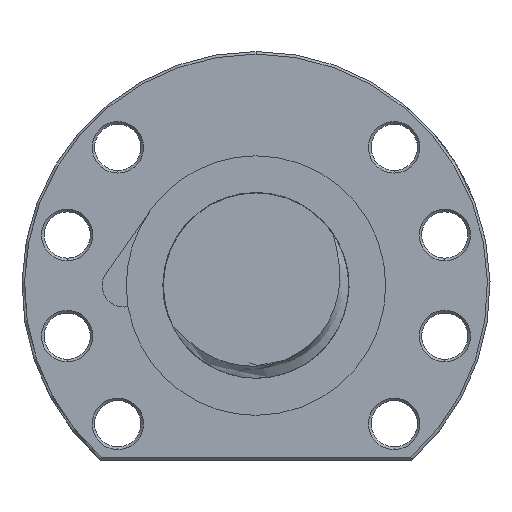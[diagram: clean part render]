
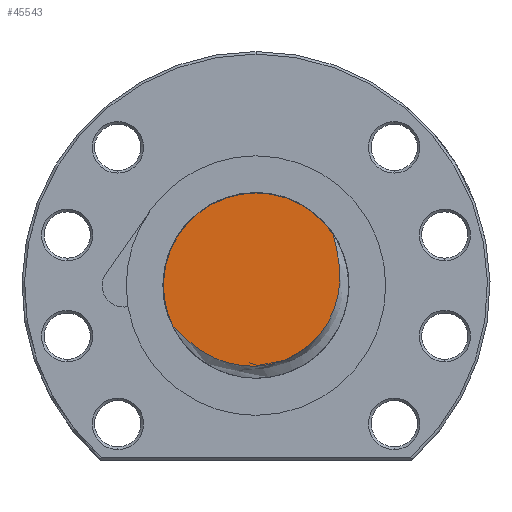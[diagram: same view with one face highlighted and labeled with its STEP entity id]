
A CAD part, left-side view. The second image highlights one B-rep face of the part: STEP entity #45543.
In plain terms, the highlighted planar face has unit normal (-1, 0, 0).
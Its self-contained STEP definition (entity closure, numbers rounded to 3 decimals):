
#68 = EDGE_CURVE ( 'NONE', #152, #69, #22469, .T. ) ;
#69 = VERTEX_POINT ( 'NONE', #22460 ) ;
#150 = VERTEX_POINT ( 'NONE', #24241 ) ;
#151 = EDGE_CURVE ( 'NONE', #150, #152, #24236, .T. ) ;
#152 = VERTEX_POINT ( 'NONE', #24227 ) ;
#22460 = CARTESIAN_POINT ( 'NONE',  ( -232., -15.025, 9.912 ) ) ;
#22462 = DIRECTION ( 'NONE',  ( 0., 1., 0. ) ) ;
#22463 = DIRECTION ( 'NONE',  ( 1., 0., 0. ) ) ;
#22465 = CARTESIAN_POINT ( 'NONE',  ( -232., 0., 0. ) ) ;
#22467 = AXIS2_PLACEMENT_3D ( 'NONE', #22465, #22463, #22462 ) ;
#22469 = CIRCLE ( 'NONE', #22467, 18. ) ;
#24227 = CARTESIAN_POINT ( 'NONE',  ( -232., 0., 18. ) ) ;
#24229 = DIRECTION ( 'NONE',  ( 0., 1., 0. ) ) ;
#24231 = DIRECTION ( 'NONE',  ( 1., 0., 0. ) ) ;
#24233 = CARTESIAN_POINT ( 'NONE',  ( -232., 0., 0. ) ) ;
#24234 = AXIS2_PLACEMENT_3D ( 'NONE', #24233, #24231, #24229 ) ;
#24236 = CIRCLE ( 'NONE', #24234, 18. ) ;
#24241 = CARTESIAN_POINT ( 'NONE',  ( -232., 16.096, -8.056 ) ) ;
#34866 = CARTESIAN_POINT ( 'NONE',  ( -232., 0.701, -15.733 ) ) ;
#34867 = CARTESIAN_POINT ( 'NONE',  ( -232., 2.358, -15.625 ) ) ;
#34868 = CARTESIAN_POINT ( 'NONE',  ( -232., 2.914, -15.562 ) ) ;
#34869 = CARTESIAN_POINT ( 'NONE',  ( -232., 4.012, -15.384 ) ) ;
#34870 = CARTESIAN_POINT ( 'NONE',  ( -232., 4.553, -15.27 ) ) ;
#34871 = CARTESIAN_POINT ( 'NONE',  ( -232., 6.153, -14.854 ) ) ;
#34872 = CARTESIAN_POINT ( 'NONE',  ( -232., 7.19, -14.479 ) ) ;
#34873 = CARTESIAN_POINT ( 'NONE',  ( -232., 8.702, -13.777 ) ) ;
#34874 = CARTESIAN_POINT ( 'NONE',  ( -232., 9.199, -13.519 ) ) ;
#34875 = CARTESIAN_POINT ( 'NONE',  ( -232., 10.159, -12.968 ) ) ;
#34876 = CARTESIAN_POINT ( 'NONE',  ( -232., 10.625, -12.674 ) ) ;
#34877 = CARTESIAN_POINT ( 'NONE',  ( -232., 11.985, -11.74 ) ) ;
#34878 = CARTESIAN_POINT ( 'NONE',  ( -232., 12.839, -11.048 ) ) ;
#34879 = CARTESIAN_POINT ( 'NONE',  ( -232., 14.069, -9.939 ) ) ;
#34880 = CARTESIAN_POINT ( 'NONE',  ( -232., 14.47, -9.557 ) ) ;
#34881 = CARTESIAN_POINT ( 'NONE',  ( -232., 15.069, -8.983 ) ) ;
#34882 = CARTESIAN_POINT ( 'NONE',  ( -232., 15.269, -8.791 ) ) ;
#34883 = CARTESIAN_POINT ( 'NONE',  ( -232., 15.674, -8.414 ) ) ;
#34884 = CARTESIAN_POINT ( 'NONE',  ( -232., 15.879, -8.228 ) ) ;
#34885 = CARTESIAN_POINT ( 'NONE',  ( -232., 16.096, -8.056 ) ) ;
#34886 = B_SPLINE_CURVE_WITH_KNOTS ( 'NONE', 3,
 ( #34885, #34884, #34883, #34882, #34881, #34880, #34879, #34878, #34877, #34876, #34875, #34874, #34873, #34872, #34871, #34870, #34869, #34868, #34867, #34866, #34943, #34942, #34941, #34940, #34939, #34938, #34937, #34936, #34935, #34934, #34933, #34932, #34931, #34930, #34929, #34928, #34927, #34926, #34925, #34924, #34923, #34922, #34921, #34920, #34919, #34918, #34917, #34916, #34915, #34914, #34913, #34912, #34911, #34910, #34909, #34908 ),
 .UNSPECIFIED., .F., .F.,
 ( 4, 2, 2, 2, 2, 2, 2, 2, 2, 2, 2, 2, 2, 2, 2, 2, 2, 2, 2, 2, 2, 2, 2, 2, 2, 2, 2, 4 ),
 ( 0.014, 0.015, 0.016, 0.017, 0.02, 0.022, 0.024, 0.027, 0.029, 0.03, 0.034, 0.035, 0.037, 0.04, 0.042, 0.043, 0.045, 0.047, 0.05, 0.052, 0.053, 0.056, 0.058, 0.06, 0.063, 0.065, 0.065, 0.066 ),
 .UNSPECIFIED. ) ;
#34908 = CARTESIAN_POINT ( 'NONE',  ( -232., -15.025, 9.912 ) ) ;
#34909 = CARTESIAN_POINT ( 'NONE',  ( -232., -15.065, 9.638 ) ) ;
#34910 = CARTESIAN_POINT ( 'NONE',  ( -232., -15.124, 9.367 ) ) ;
#34911 = CARTESIAN_POINT ( 'NONE',  ( -232., -15.247, 8.828 ) ) ;
#34912 = CARTESIAN_POINT ( 'NONE',  ( -232., -15.314, 8.559 ) ) ;
#34913 = CARTESIAN_POINT ( 'NONE',  ( -232., -15.512, 7.752 ) ) ;
#34914 = CARTESIAN_POINT ( 'NONE',  ( -232., -15.642, 7.214 ) ) ;
#34915 = CARTESIAN_POINT ( 'NONE',  ( -232., -15.988, 5.593 ) ) ;
#34916 = CARTESIAN_POINT ( 'NONE',  ( -232., -16.16, 4.505 ) ) ;
#34917 = CARTESIAN_POINT ( 'NONE',  ( -232., -16.289, 2.854 ) ) ;
#34918 = CARTESIAN_POINT ( 'NONE',  ( -232., -16.31, 2.3 ) ) ;
#34919 = CARTESIAN_POINT ( 'NONE',  ( -232., -16.307, 1.187 ) ) ;
#34920 = CARTESIAN_POINT ( 'NONE',  ( -232., -16.281, 0.629 ) ) ;
#34921 = CARTESIAN_POINT ( 'NONE',  ( -232., -16.132, -1.024 ) ) ;
#34922 = CARTESIAN_POINT ( 'NONE',  ( -232., -15.938, -2.109 ) ) ;
#34923 = CARTESIAN_POINT ( 'NONE',  ( -232., -15.495, -3.711 ) ) ;
#34924 = CARTESIAN_POINT ( 'NONE',  ( -232., -15.321, -4.243 ) ) ;
#34925 = CARTESIAN_POINT ( 'NONE',  ( -232., -14.924, -5.282 ) ) ;
#34926 = CARTESIAN_POINT ( 'NONE',  ( -232., -14.702, -5.789 ) ) ;
#34927 = CARTESIAN_POINT ( 'NONE',  ( -232., -13.968, -7.272 ) ) ;
#34928 = CARTESIAN_POINT ( 'NONE',  ( -232., -13.388, -8.211 ) ) ;
#34929 = CARTESIAN_POINT ( 'NONE',  ( -232., -12.371, -9.54 ) ) ;
#34930 = CARTESIAN_POINT ( 'NONE',  ( -232., -12.01, -9.965 ) ) ;
#34931 = CARTESIAN_POINT ( 'NONE',  ( -232., -11.255, -10.772 ) ) ;
#34932 = CARTESIAN_POINT ( 'NONE',  ( -232., -10.86, -11.156 ) ) ;
#34933 = CARTESIAN_POINT ( 'NONE',  ( -232., -10.032, -11.884 ) ) ;
#34934 = CARTESIAN_POINT ( 'NONE',  ( -232., -9.6, -12.227 ) ) ;
#34935 = CARTESIAN_POINT ( 'NONE',  ( -232., -8.698, -12.874 ) ) ;
#34936 = CARTESIAN_POINT ( 'NONE',  ( -232., -8.226, -13.178 ) ) ;
#34937 = CARTESIAN_POINT ( 'NONE',  ( -232., -6.784, -14.008 ) ) ;
#34938 = CARTESIAN_POINT ( 'NONE',  ( -232., -5.779, -14.461 ) ) ;
#34939 = CARTESIAN_POINT ( 'NONE',  ( -232., -4.21, -14.99 ) ) ;
#34940 = CARTESIAN_POINT ( 'NONE',  ( -232., -3.676, -15.141 ) ) ;
#34941 = CARTESIAN_POINT ( 'NONE',  ( -232., -2.587, -15.391 ) ) ;
#34942 = CARTESIAN_POINT ( 'NONE',  ( -232., -2.041, -15.488 ) ) ;
#34943 = CARTESIAN_POINT ( 'NONE',  ( -232., -0.399, -15.7 ) ) ;
#34969 = DIRECTION ( 'NONE',  ( 0., 0., -1. ) ) ;
#34970 = DIRECTION ( 'NONE',  ( 1., 0., 0. ) ) ;
#34971 = CARTESIAN_POINT ( 'NONE',  ( -232., 0., 0. ) ) ;
#34972 = AXIS2_PLACEMENT_3D ( 'NONE', #34971, #34970, #34969 ) ;
#34973 = PLANE ( 'NONE',  #34972 ) ;
#34974 = FACE_OUTER_BOUND ( 'NONE', #45555, .T. ) ;
#45528 = EDGE_CURVE ( 'NONE', #150, #69, #34886, .T. ) ;
#45530 = ORIENTED_EDGE ( 'NONE', *, *, #68, .F. ) ;
#45534 = ORIENTED_EDGE ( 'NONE', *, *, #45528, .T. ) ;
#45543 = ADVANCED_FACE ( 'NONE', ( #34974 ), #34973, .F. ) ;
#45551 = ORIENTED_EDGE ( 'NONE', *, *, #151, .F. ) ;
#45555 = EDGE_LOOP ( 'NONE', ( #45551, #45534, #45530 ) ) ;
